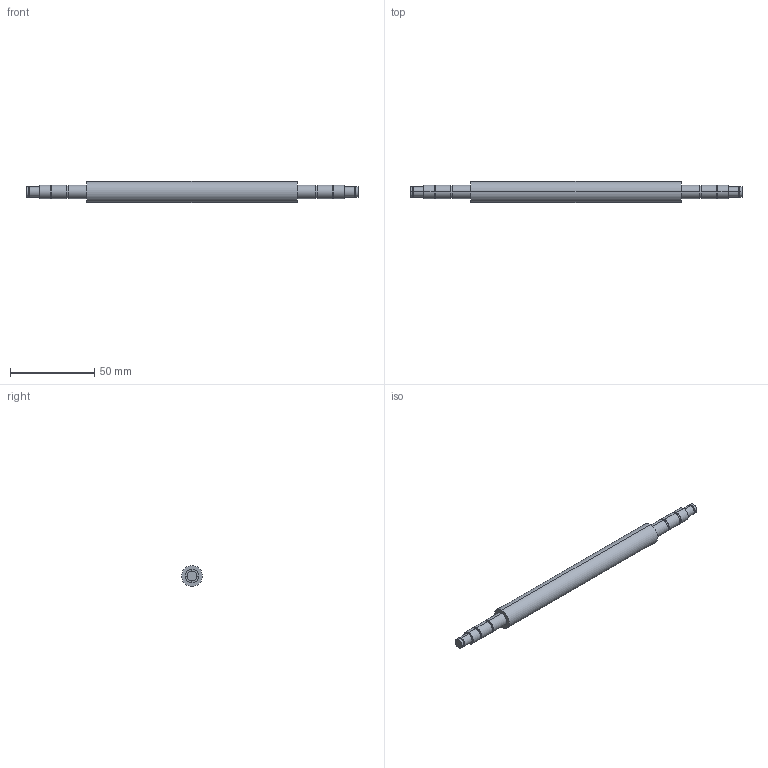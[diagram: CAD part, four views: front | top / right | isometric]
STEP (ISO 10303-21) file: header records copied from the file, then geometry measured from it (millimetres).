
FILE_DESCRIPTION (( 'STEP AP203' ), '1' );
FILE_NAME ('FB-010-25B蛌粣D.STEP', '2025-03-19T03:59:12', ( 'Windows 蚚誧' ), ( 'Organization' ), 'SwSTEP 2.0', 'SolidWorks 2020', '' );
FILE_SCHEMA (( 'CONFIG_CONTROL_DESIGN' ));
Length unit declared in the file: millimetre
Products named in the file (1): FB-010-25B蛌粣D
Bounding box: 197.6 x 12.5 x 12.5 mm (x, y, z)
Volume: 18574.6 mm3; surface area: 6965 mm2
Topology: 1 solids, 1 shells, 52 faces, 102 edges, 68 vertices
Faces by surface type: cylinder 34, plane 18
Entity records: 1451 total; most frequent: DIRECTION 276, CARTESIAN_POINT 223, ORIENTED_EDGE 204, AXIS2_PLACEMENT_3D 121, EDGE_CURVE 102, VERTEX_POINT 68, EDGE_LOOP 68, CIRCLE 68
